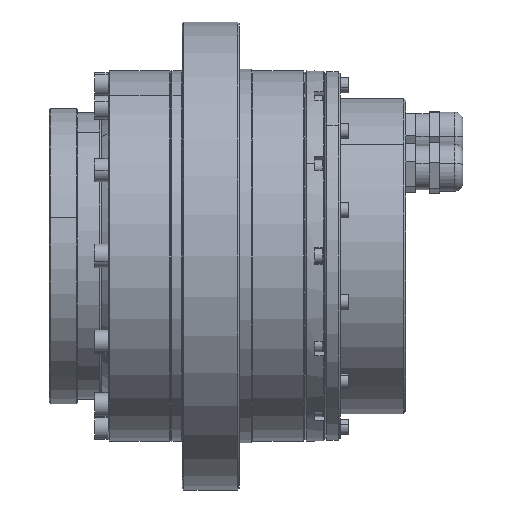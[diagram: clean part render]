
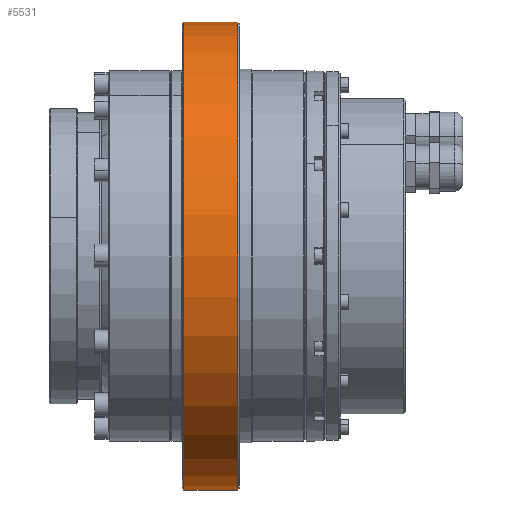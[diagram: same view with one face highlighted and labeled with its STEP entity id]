
A CAD part, front view. The second image highlights one B-rep face of the part: STEP entity #5531.
In plain terms, the highlighted cylindrical face has radius 69.5 mm (diameter 139 mm), a partial arc.
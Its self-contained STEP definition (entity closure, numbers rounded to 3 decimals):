
#1033 = FACE_OUTER_BOUND ( 'NONE', #18644, .T. ) ;
#3318 = CARTESIAN_POINT ( 'NONE',  ( 2.5, 0., 69.5 ) ) ;
#5531 = ADVANCED_FACE ( 'NONE', ( #1033 ), #27646, .T. ) ;
#5988 = DIRECTION ( 'NONE',  ( 0., 0., 1. ) ) ;
#9873 = ORIENTED_EDGE ( 'NONE', *, *, #32680, .F. ) ;
#10983 = ORIENTED_EDGE ( 'NONE', *, *, #36844, .T. ) ;
#15442 = CARTESIAN_POINT ( 'NONE',  ( 18.5, 0., -69.5 ) ) ;
#17064 = VERTEX_POINT ( 'NONE', #50701 ) ;
#17224 = ORIENTED_EDGE ( 'NONE', *, *, #42316, .T. ) ;
#18644 = EDGE_LOOP ( 'NONE', ( #9873, #17224, #10983, #41385 ) ) ;
#19225 = CARTESIAN_POINT ( 'NONE',  ( 19., 0., -69.5 ) ) ;
#21057 = DIRECTION ( 'NONE',  ( 0., 0., 1. ) ) ;
#21680 = VECTOR ( 'NONE', #29113, 1000. ) ;
#23808 = VERTEX_POINT ( 'NONE', #15442 ) ;
#27605 = DIRECTION ( 'NONE',  ( -1., 0., 0. ) ) ;
#27646 = CYLINDRICAL_SURFACE ( 'NONE', #45328, 69.5 ) ;
#28172 = AXIS2_PLACEMENT_3D ( 'NONE', #59046, #44119, #32795 ) ;
#28641 = EDGE_CURVE ( 'NONE', #50267, #46911, #41755, .T. ) ;
#29113 = DIRECTION ( 'NONE',  ( -1., 0., 0. ) ) ;
#29712 = VECTOR ( 'NONE', #34810, 1000. ) ;
#32680 = EDGE_CURVE ( 'NONE', #23808, #46911, #48885, .T. ) ;
#32795 = DIRECTION ( 'NONE',  ( 0., 0., 1. ) ) ;
#34810 = DIRECTION ( 'NONE',  ( -1., 0., 0. ) ) ;
#36844 = EDGE_CURVE ( 'NONE', #17064, #50267, #44131, .T. ) ;
#38585 = CIRCLE ( 'NONE', #45866, 69.5 ) ;
#41385 = ORIENTED_EDGE ( 'NONE', *, *, #28641, .T. ) ;
#41755 = CIRCLE ( 'NONE', #28172, 69.5 ) ;
#42316 = EDGE_CURVE ( 'NONE', #23808, #17064, #38585, .T. ) ;
#44090 = CARTESIAN_POINT ( 'NONE',  ( 2.5, 0., -69.5 ) ) ;
#44119 = DIRECTION ( 'NONE',  ( 1., 0., 0. ) ) ;
#44131 = LINE ( 'NONE', #60965, #21680 ) ;
#45328 = AXIS2_PLACEMENT_3D ( 'NONE', #52885, #48014, #21057 ) ;
#45866 = AXIS2_PLACEMENT_3D ( 'NONE', #64783, #27605, #5988 ) ;
#46911 = VERTEX_POINT ( 'NONE', #44090 ) ;
#48014 = DIRECTION ( 'NONE',  ( -1., 0., 0. ) ) ;
#48885 = LINE ( 'NONE', #19225, #29712 ) ;
#50267 = VERTEX_POINT ( 'NONE', #3318 ) ;
#50701 = CARTESIAN_POINT ( 'NONE',  ( 18.5, 0., 69.5 ) ) ;
#52885 = CARTESIAN_POINT ( 'NONE',  ( 19., 0., 0. ) ) ;
#59046 = CARTESIAN_POINT ( 'NONE',  ( 2.5, 0., 0. ) ) ;
#60965 = CARTESIAN_POINT ( 'NONE',  ( 19., 0., 69.5 ) ) ;
#64783 = CARTESIAN_POINT ( 'NONE',  ( 18.5, 0., 0. ) ) ;
